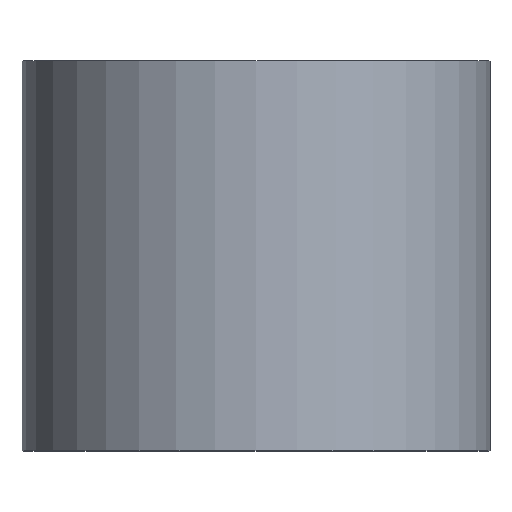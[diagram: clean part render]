
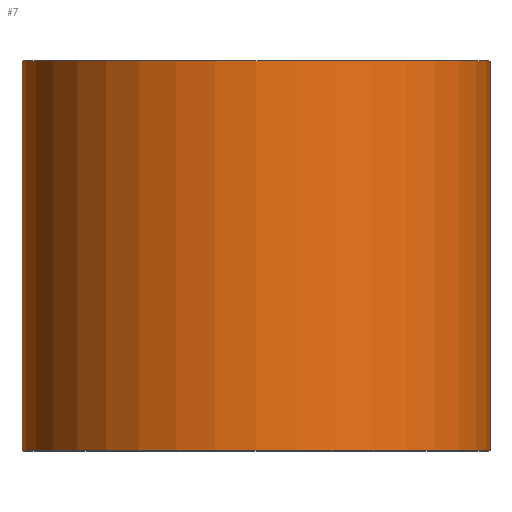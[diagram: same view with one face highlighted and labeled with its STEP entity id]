
A CAD part, top view. The second image highlights one B-rep face of the part: STEP entity #7.
In plain terms, the highlighted cylindrical face has radius 6 mm (diameter 12 mm), a partial arc.
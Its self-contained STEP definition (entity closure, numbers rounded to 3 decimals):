
#1 = EDGE_CURVE ( 'NONE', #296, #204, #81, .T. ) ;
#5 = DIRECTION ( 'NONE',  ( 0., 1., 0. ) ) ;
#7 = ADVANCED_FACE ( 'NONE', ( #282 ), #136, .T. ) ;
#20 = CARTESIAN_POINT ( 'NONE',  ( -6., 0., 0. ) ) ;
#30 = LINE ( 'NONE', #299, #283 ) ;
#46 = AXIS2_PLACEMENT_3D ( 'NONE', #64, #285, #218 ) ;
#47 = DIRECTION ( 'NONE',  ( 0., 1., 0. ) ) ;
#49 = ORIENTED_EDGE ( 'NONE', *, *, #1, .T. ) ;
#64 = CARTESIAN_POINT ( 'NONE',  ( 0., 10., 0. ) ) ;
#81 = CIRCLE ( 'NONE', #273, 6. ) ;
#82 = VECTOR ( 'NONE', #94, 1000. ) ;
#87 = CARTESIAN_POINT ( 'NONE',  ( 0., 0., 0. ) ) ;
#94 = DIRECTION ( 'NONE',  ( 0., 1., 0. ) ) ;
#109 = EDGE_CURVE ( 'NONE', #186, #260, #155, .T. ) ;
#127 = CARTESIAN_POINT ( 'NONE',  ( 6., 0., 0. ) ) ;
#136 = CYLINDRICAL_SURFACE ( 'NONE', #151, 6. ) ;
#137 = CARTESIAN_POINT ( 'NONE',  ( -6., 10., 0. ) ) ;
#151 = AXIS2_PLACEMENT_3D ( 'NONE', #236, #276, #257 ) ;
#155 = CIRCLE ( 'NONE', #46, 6. ) ;
#171 = EDGE_LOOP ( 'NONE', ( #49, #193, #229, #274 ) ) ;
#186 = VERTEX_POINT ( 'NONE', #137 ) ;
#188 = CARTESIAN_POINT ( 'NONE',  ( 6., 10., 0. ) ) ;
#193 = ORIENTED_EDGE ( 'NONE', *, *, #270, .T. ) ;
#204 = VERTEX_POINT ( 'NONE', #259 ) ;
#218 = DIRECTION ( 'NONE',  ( -1., 0., 0. ) ) ;
#229 = ORIENTED_EDGE ( 'NONE', *, *, #109, .F. ) ;
#231 = DIRECTION ( 'NONE',  ( -1., 0., 0. ) ) ;
#236 = CARTESIAN_POINT ( 'NONE',  ( 0., 0., 0. ) ) ;
#257 = DIRECTION ( 'NONE',  ( -1., 0., 0. ) ) ;
#259 = CARTESIAN_POINT ( 'NONE',  ( 6., 0., 0. ) ) ;
#260 = VERTEX_POINT ( 'NONE', #188 ) ;
#262 = EDGE_CURVE ( 'NONE', #296, #186, #30, .T. ) ;
#270 = EDGE_CURVE ( 'NONE', #204, #260, #295, .T. ) ;
#273 = AXIS2_PLACEMENT_3D ( 'NONE', #87, #5, #231 ) ;
#274 = ORIENTED_EDGE ( 'NONE', *, *, #262, .F. ) ;
#276 = DIRECTION ( 'NONE',  ( 0., 1., 0. ) ) ;
#282 = FACE_OUTER_BOUND ( 'NONE', #171, .T. ) ;
#283 = VECTOR ( 'NONE', #47, 1000. ) ;
#285 = DIRECTION ( 'NONE',  ( 0., 1., 0. ) ) ;
#295 = LINE ( 'NONE', #127, #82 ) ;
#296 = VERTEX_POINT ( 'NONE', #20 ) ;
#299 = CARTESIAN_POINT ( 'NONE',  ( -6., 0., 0. ) ) ;
